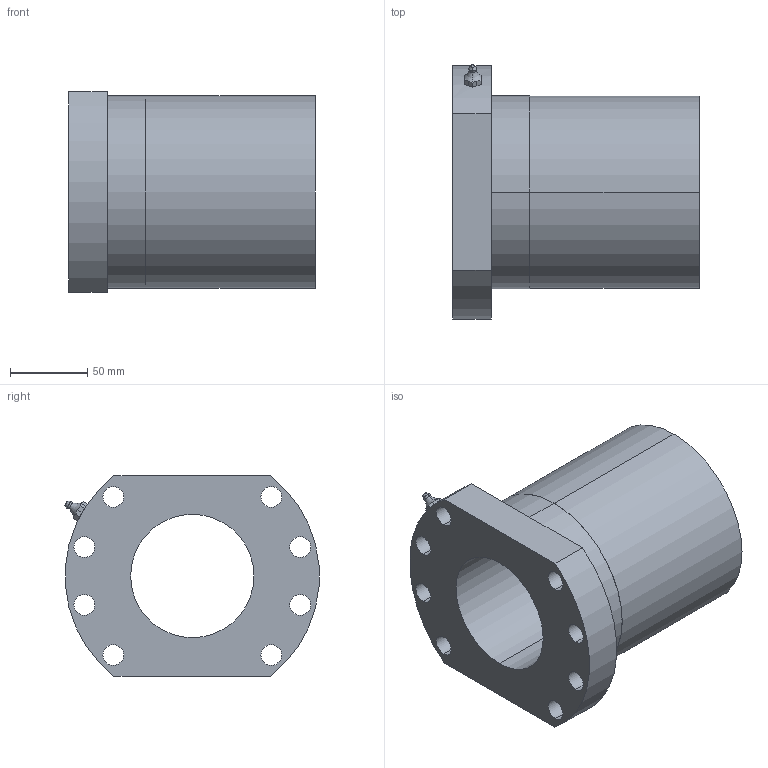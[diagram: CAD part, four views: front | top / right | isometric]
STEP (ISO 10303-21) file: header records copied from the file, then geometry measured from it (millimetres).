
FILE_DESCRIPTION (( 'STEP AP203' ), '1' );
FILE_NAME ('DEB8020-R-4EP.STEP', '2002-08-15T11:02:01', ( '.' ), ( '.' ), 'SwSTEP 2.0', 'SolidWorks 2001340', '' );
FILE_SCHEMA (( 'CONFIG_CONTROL_DESIGN' ));
Length unit declared in the file: millimetre
Products named in the file (1): DEB8020-R-4EP
Bounding box: 160 x 164.81 x 130 mm (x, y, z)
Volume: 1292961.6 mm3; surface area: 139993.5 mm2
Topology: 1 solids, 1 shells, 55 faces, 150 edges, 98 vertices
Faces by surface type: cylinder 30, plane 19, torus 2, sphere 2, cone 2
Entity records: 1899 total; most frequent: CARTESIAN_POINT 420, DIRECTION 294, ORIENTED_EDGE 292, EDGE_CURVE 146, AXIS2_PLACEMENT_3D 122, VERTEX_POINT 96, EDGE_LOOP 76, CIRCLE 66
